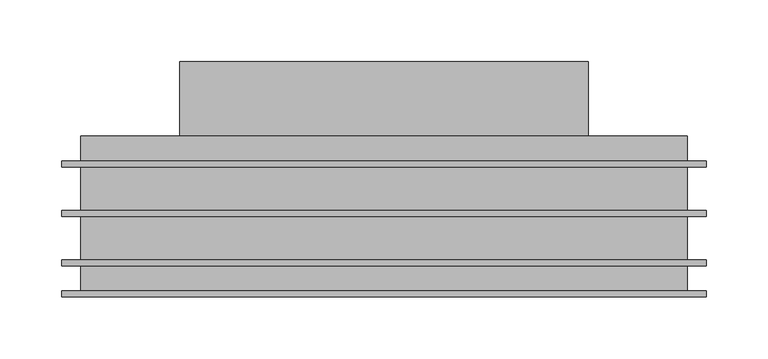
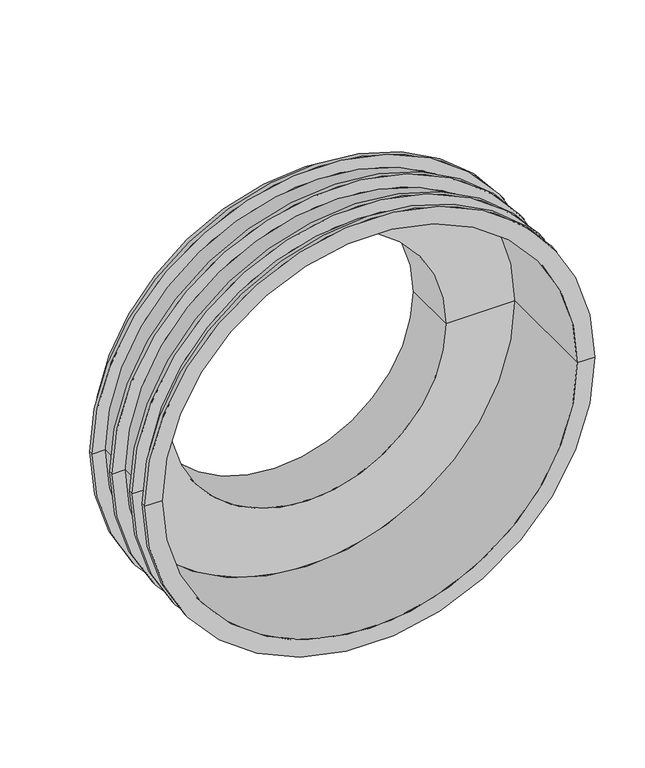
"""IFC4 building model written with IfcOpenShell, lengths in millimetres: pipe fitting geometry, Z_PIF_UN_Q-Bic_Plus_Manschette_Wavin_(nested) : 425/315 PP."""

from ifc_helpers import new_model, si_unit, frame, origin, place, context, project, spatial, polyline, circle_curve, source, transform, mapped, element, save
from ifc_brep_helpers import plane_surface, cylinder_surface, revolved_surface, advanced_brep


def pipe_fitting_19354b99(model_context):
    return source(origin(), model_context, "Body", "AdvancedBrep", [
        advanced_brep(
        [(-240.0, 0.0, 0.0), (240.0, 0.0, 0.0), (240.0, 125.0, 0.0), (-240.0, 125.0, 0.0), (-260.0, 0.0, 0.0), (260.0, 0.0, 0.0), (-260.0, 5.0, 0.0), (260.0, 5.0, 0.0), (-245.0, 5.0, 0.0), (245.0, 5.0, 0.0), (-245.0, 25.0, 0.0), (245.0, 25.0, 0.0), (-260.0, 25.0, 0.0), (260.0, 25.0, 0.0), (-260.0, 30.0, 0.0), (260.0, 30.0, 0.0), (-245.0, 30.0, 0.0), (245.0, 30.0, 0.0), (-245.0, 65.0, 0.0), (245.0, 65.0, 0.0), (-260.0, 65.0, 0.0), (260.0, 65.0, 0.0), (-260.0, 70.0, 0.0), (260.0, 70.0, 0.0), (-245.0, 70.0, 0.0), (245.0, 70.0, 0.0), (-245.0, 105.0, 0.0), (245.0, 105.0, 0.0), (-260.0, 105.0, 0.0), (260.0, 105.0, 0.0), (-260.0, 110.0, 0.0), (260.0, 110.0, 0.0), (-245.0, 110.0, 0.0), (245.0, 110.0, 0.0), (-245.0, 130.0, 0.0), (245.0, 130.0, 0.0), (-165.0, 130.0, 0.0), (165.0, 130.0, 0.0), (-165.0, 190.0, 0.0), (165.0, 190.0, 0.0), (-160.0, 190.0, 0.0), (160.0, 190.0, 0.0), (-160.0, 125.0, 0.0), (160.0, 125.0, 0.0)],
        [
            (0, 1, circle_curve(frame((0.0, 0.0, 0.0), z_axis=(0.0, -1.0, 0.0), x_axis=(1.0, 0.0, 0.0)), 240.0)),
            (1, 2),
            (2, 3, circle_curve(frame((0.0, 125.0, 0.0), z_axis=(0.0, 1.0, 0.0), x_axis=(1.0, 0.0, 0.0)), 240.0)),
            (3, 0),
            (1, 0, circle_curve(frame((0.0, 0.0, 0.0), z_axis=(0.0, -1.0, 0.0), x_axis=(1.0, 0.0, 0.0)), 240.0)),
            (3, 2, circle_curve(frame((0.0, 125.0, 0.0), z_axis=(0.0, 1.0, 0.0), x_axis=(1.0, 0.0, 0.0)), 240.0)),
            (4, 5, circle_curve(frame((0.0, 0.0, 0.0), z_axis=(0.0, -1.0, 0.0), x_axis=(1.0, 0.0, 0.0)), 260.0)),
            (5, 1),
            (0, 4),
            (5, 4, circle_curve(frame((0.0, 0.0, 0.0), z_axis=(0.0, -1.0, 0.0), x_axis=(1.0, 0.0, 0.0)), 260.0)),
            (6, 7, circle_curve(frame((0.0, 5.0, 0.0), z_axis=(0.0, -1.0, 0.0), x_axis=(1.0, 0.0, 0.0)), 260.0)),
            (7, 5),
            (4, 6),
            (7, 6, circle_curve(frame((0.0, 5.0, 0.0), z_axis=(0.0, -1.0, 0.0), x_axis=(1.0, 0.0, 0.0)), 260.0)),
            (8, 9, circle_curve(frame((0.0, 5.0, 0.0), z_axis=(0.0, -1.0, 0.0), x_axis=(1.0, 0.0, 0.0)), 245.0)),
            (9, 7),
            (6, 8),
            (9, 8, circle_curve(frame((0.0, 5.0, 0.0), z_axis=(0.0, -1.0, 0.0), x_axis=(1.0, 0.0, 0.0)), 245.0)),
            (10, 11, circle_curve(frame((0.0, 25.0, 0.0), z_axis=(0.0, -1.0, 0.0), x_axis=(1.0, 0.0, 0.0)), 245.0)),
            (11, 9),
            (8, 10),
            (11, 10, circle_curve(frame((0.0, 25.0, 0.0), z_axis=(0.0, -1.0, 0.0), x_axis=(1.0, 0.0, 0.0)), 245.0)),
            (12, 13, circle_curve(frame((0.0, 25.0, 0.0), z_axis=(0.0, -1.0, 0.0), x_axis=(1.0, 0.0, 0.0)), 260.0)),
            (13, 11),
            (10, 12),
            (13, 12, circle_curve(frame((0.0, 25.0, 0.0), z_axis=(0.0, -1.0, 0.0), x_axis=(1.0, 0.0, 0.0)), 260.0)),
            (14, 15, circle_curve(frame((0.0, 30.0, 0.0), z_axis=(0.0, -1.0, 0.0), x_axis=(1.0, 0.0, 0.0)), 260.0)),
            (15, 13),
            (12, 14),
            (15, 14, circle_curve(frame((0.0, 30.0, 0.0), z_axis=(0.0, -1.0, 0.0), x_axis=(1.0, 0.0, 0.0)), 260.0)),
            (16, 17, circle_curve(frame((0.0, 30.0, 0.0), z_axis=(0.0, -1.0, 0.0), x_axis=(1.0, 0.0, 0.0)), 245.0)),
            (17, 15),
            (14, 16),
            (17, 16, circle_curve(frame((0.0, 30.0, 0.0), z_axis=(0.0, -1.0, 0.0), x_axis=(1.0, 0.0, 0.0)), 245.0)),
            (18, 19, circle_curve(frame((0.0, 65.0, 0.0), z_axis=(0.0, -1.0, 0.0), x_axis=(1.0, 0.0, 0.0)), 245.0)),
            (19, 17),
            (16, 18),
            (19, 18, circle_curve(frame((0.0, 65.0, 0.0), z_axis=(0.0, -1.0, 0.0), x_axis=(1.0, 0.0, 0.0)), 245.0)),
            (20, 21, circle_curve(frame((0.0, 65.0, 0.0), z_axis=(0.0, -1.0, 0.0), x_axis=(1.0, 0.0, 0.0)), 260.0)),
            (21, 19),
            (18, 20),
            (21, 20, circle_curve(frame((0.0, 65.0, 0.0), z_axis=(0.0, -1.0, 0.0), x_axis=(1.0, 0.0, 0.0)), 260.0)),
            (22, 23, circle_curve(frame((0.0, 70.0, 0.0), z_axis=(0.0, -1.0, 0.0), x_axis=(1.0, 0.0, 0.0)), 260.0)),
            (23, 21),
            (20, 22),
            (23, 22, circle_curve(frame((0.0, 70.0, 0.0), z_axis=(0.0, -1.0, 0.0), x_axis=(1.0, 0.0, 0.0)), 260.0)),
            (24, 25, circle_curve(frame((0.0, 70.0, 0.0), z_axis=(0.0, -1.0, 0.0), x_axis=(1.0, 0.0, 0.0)), 245.0)),
            (25, 23),
            (22, 24),
            (25, 24, circle_curve(frame((0.0, 70.0, 0.0), z_axis=(0.0, -1.0, 0.0), x_axis=(1.0, 0.0, 0.0)), 245.0)),
            (26, 27, circle_curve(frame((0.0, 105.0, 0.0), z_axis=(0.0, -1.0, 0.0), x_axis=(1.0, 0.0, 0.0)), 245.0)),
            (27, 25),
            (24, 26),
            (27, 26, circle_curve(frame((0.0, 105.0, 0.0), z_axis=(0.0, -1.0, 0.0), x_axis=(1.0, 0.0, 0.0)), 245.0)),
            (28, 29, circle_curve(frame((0.0, 105.0, 0.0), z_axis=(0.0, -1.0, 0.0), x_axis=(1.0, 0.0, 0.0)), 260.0)),
            (29, 27),
            (26, 28),
            (29, 28, circle_curve(frame((0.0, 105.0, 0.0), z_axis=(0.0, -1.0, 0.0), x_axis=(1.0, 0.0, 0.0)), 260.0)),
            (30, 31, circle_curve(frame((0.0, 110.0, 0.0), z_axis=(0.0, -1.0, 0.0), x_axis=(1.0, 0.0, 0.0)), 260.0)),
            (31, 29),
            (28, 30),
            (31, 30, circle_curve(frame((0.0, 110.0, 0.0), z_axis=(0.0, -1.0, 0.0), x_axis=(1.0, 0.0, 0.0)), 260.0)),
            (32, 33, circle_curve(frame((0.0, 110.0, 0.0), z_axis=(0.0, -1.0, 0.0), x_axis=(1.0, 0.0, 0.0)), 245.0)),
            (33, 31),
            (30, 32),
            (33, 32, circle_curve(frame((0.0, 110.0, 0.0), z_axis=(0.0, -1.0, 0.0), x_axis=(1.0, 0.0, 0.0)), 245.0)),
            (34, 35, circle_curve(frame((0.0, 130.0, 0.0), z_axis=(0.0, -1.0, 0.0), x_axis=(1.0, 0.0, 0.0)), 245.0)),
            (35, 33),
            (32, 34),
            (35, 34, circle_curve(frame((0.0, 130.0, 0.0), z_axis=(0.0, -1.0, 0.0), x_axis=(1.0, 0.0, 0.0)), 245.0)),
            (36, 37, circle_curve(frame((0.0, 130.0, 0.0), z_axis=(0.0, -1.0, 0.0), x_axis=(1.0, 0.0, 0.0)), 165.0)),
            (37, 35),
            (34, 36),
            (37, 36, circle_curve(frame((0.0, 130.0, 0.0), z_axis=(0.0, -1.0, 0.0), x_axis=(1.0, 0.0, 0.0)), 165.0)),
            (38, 39, circle_curve(frame((0.0, 190.0, 0.0), z_axis=(0.0, -1.0, 0.0), x_axis=(1.0, 0.0, 0.0)), 165.0)),
            (39, 37),
            (36, 38),
            (39, 38, circle_curve(frame((0.0, 190.0, 0.0), z_axis=(0.0, -1.0, 0.0), x_axis=(1.0, 0.0, 0.0)), 165.0)),
            (40, 41, circle_curve(frame((0.0, 190.0, 0.0), z_axis=(0.0, -1.0, 0.0), x_axis=(1.0, 0.0, 0.0)), 160.0)),
            (41, 39),
            (38, 40),
            (41, 40, circle_curve(frame((0.0, 190.0, 0.0), z_axis=(0.0, -1.0, 0.0), x_axis=(1.0, 0.0, 0.0)), 160.0)),
            (42, 43, circle_curve(frame((0.0, 125.0, 0.0), z_axis=(0.0, -1.0, 0.0), x_axis=(1.0, 0.0, 0.0)), 160.0)),
            (43, 41),
            (40, 42),
            (43, 42, circle_curve(frame((0.0, 125.0, 0.0), z_axis=(0.0, -1.0, 0.0), x_axis=(1.0, 0.0, 0.0)), 160.0)),
            (2, 43),
            (42, 3),
        ],
        [
            revolved_surface(polyline([(240.0, 125.0, 0.0), (240.0, 0.0, 0.0)]), (0.0, 1945.0, 0.0), (0.0, 1.0, 0.0)),
            plane_surface(frame((0.0, 0.0, 0.0), z_axis=(0.0, -1.0, 0.0), x_axis=(1.0, 0.0, 0.0))),
            cylinder_surface(frame((0.0, 1945.0, 0.0), z_axis=(0.0, 1.0, 0.0), x_axis=(1.0, 0.0, 0.0)), 260.0),
            plane_surface(frame((0.0, 5.0, 0.0), z_axis=(0.0, 1.0, 0.0), x_axis=(1.0, 0.0, 0.0))),
            cylinder_surface(frame((0.0, 1945.0, 0.0), z_axis=(0.0, 1.0, 0.0), x_axis=(1.0, 0.0, 0.0)), 245.0),
            plane_surface(frame((0.0, 25.0, 0.0), z_axis=(0.0, -1.0, 0.0), x_axis=(1.0, 0.0, 0.0))),
            plane_surface(frame((0.0, 30.0, 0.0), z_axis=(0.0, 1.0, 0.0), x_axis=(1.0, 0.0, 0.0))),
            plane_surface(frame((0.0, 65.0, 0.0), z_axis=(0.0, -1.0, 0.0), x_axis=(1.0, 0.0, 0.0))),
            plane_surface(frame((0.0, 70.0, 0.0), z_axis=(0.0, 1.0, 0.0), x_axis=(1.0, 0.0, 0.0))),
            plane_surface(frame((0.0, 105.0, 0.0), z_axis=(0.0, -1.0, 0.0), x_axis=(1.0, 0.0, 0.0))),
            plane_surface(frame((0.0, 110.0, 0.0), z_axis=(0.0, 1.0, 0.0), x_axis=(1.0, 0.0, 0.0))),
            plane_surface(frame((0.0, 130.0, 0.0), z_axis=(0.0, 1.0, 0.0), x_axis=(1.0, 0.0, 0.0))),
            cylinder_surface(frame((0.0, 1945.0, 0.0), z_axis=(0.0, 1.0, 0.0), x_axis=(1.0, 0.0, 0.0)), 165.0),
            plane_surface(frame((0.0, 190.0, 0.0), z_axis=(0.0, 1.0, 0.0), x_axis=(1.0, 0.0, 0.0))),
            revolved_surface(polyline([(160.0, 190.0, 0.0), (160.0, 125.0, 0.0)]), (0.0, 1945.0, 0.0), (0.0, 1.0, 0.0)),
            plane_surface(frame((0.0, 125.0, 0.0), z_axis=(0.0, -1.0, 0.0), x_axis=(1.0, 0.0, 0.0))),
        ],
        [
            (0, [[1, 2, 3, 4]]),
            (0, [[5, -4, 6, -2]]),
            (1, [[7, 8, -1, 9]]),
            (1, [[10, -9, -5, -8]]),
            (2, [[11, 12, -7, 13]]),
            (2, [[14, -13, -10, -12]]),
            (3, [[15, 16, -11, 17]]),
            (3, [[18, -17, -14, -16]]),
            (4, [[19, 20, -15, 21]]),
            (4, [[22, -21, -18, -20]]),
            (5, [[23, 24, -19, 25]]),
            (5, [[26, -25, -22, -24]]),
            (2, [[27, 28, -23, 29]]),
            (2, [[30, -29, -26, -28]]),
            (6, [[31, 32, -27, 33]]),
            (6, [[34, -33, -30, -32]]),
            (4, [[35, 36, -31, 37]]),
            (4, [[38, -37, -34, -36]]),
            (7, [[39, 40, -35, 41]]),
            (7, [[42, -41, -38, -40]]),
            (2, [[43, 44, -39, 45]]),
            (2, [[46, -45, -42, -44]]),
            (8, [[47, 48, -43, 49]]),
            (8, [[50, -49, -46, -48]]),
            (4, [[51, 52, -47, 53]]),
            (4, [[54, -53, -50, -52]]),
            (9, [[55, 56, -51, 57]]),
            (9, [[58, -57, -54, -56]]),
            (2, [[59, 60, -55, 61]]),
            (2, [[62, -61, -58, -60]]),
            (10, [[63, 64, -59, 65]]),
            (10, [[66, -65, -62, -64]]),
            (4, [[67, 68, -63, 69]]),
            (4, [[70, -69, -66, -68]]),
            (11, [[71, 72, -67, 73]]),
            (11, [[74, -73, -70, -72]]),
            (12, [[75, 76, -71, 77]]),
            (12, [[78, -77, -74, -76]]),
            (13, [[79, 80, -75, 81]]),
            (13, [[82, -81, -78, -80]]),
            (14, [[83, 84, -79, 85]]),
            (14, [[86, -85, -82, -84]]),
            (15, [[-3, 87, -83, 88]]),
            (15, [[-6, -88, -86, -87]]),
        ],
    ),
    ])


if __name__ == "__main__":
    model = new_model("IFC4")
    model_context = context("Model", 3, world=origin())
    ifc_project = project(units=[si_unit("LENGTHUNIT", "METRE", prefix="MILLI")], contexts=[model_context])
    site = spatial("IfcSite", under=ifc_project)
    building = spatial("IfcBuilding", under=site)
    placement = place(None, origin())
    pipe_fitting_shape = pipe_fitting_19354b99(model_context)
    element("IfcPipeFitting", 1, ObjectType="Z_PIF_UN_Q-Bic_Plus_Manschette_Wavin_(nested) : 425/315 PP", at=placement, inside=building, context=model_context, shape_type="MappedRepresentation", body=[
        mapped(pipe_fitting_shape, transform((0.0, 0.0, 0.0), x_axis=(1.0, 0.0, 0.0), y_axis=(0.0, 1.0, 0.0), z_axis=(0.0, 0.0, 1.0))),
    ])
    save(model, "model.ifc")
